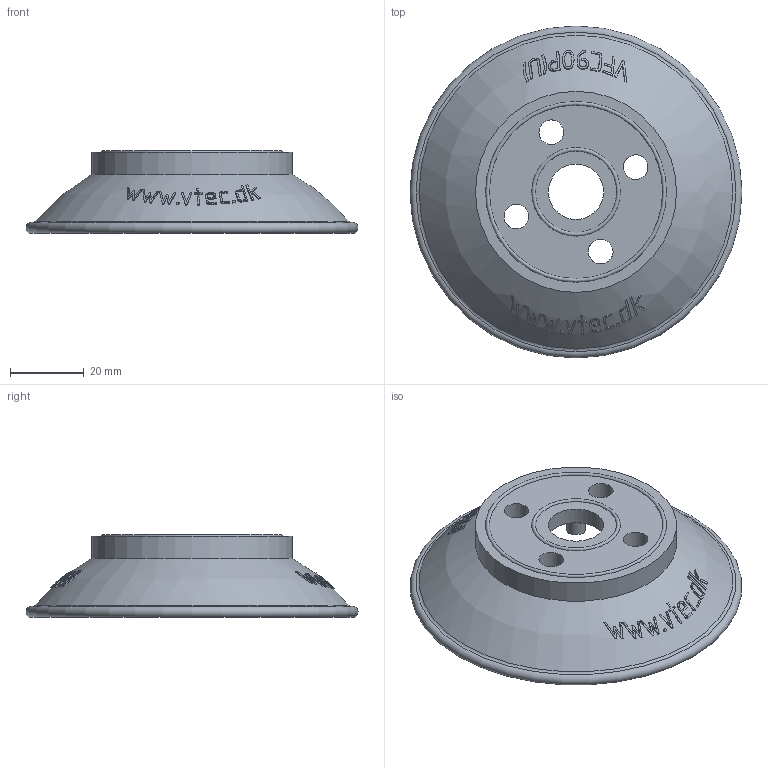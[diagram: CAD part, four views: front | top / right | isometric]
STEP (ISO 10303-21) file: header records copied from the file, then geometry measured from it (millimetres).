
FILE_DESCRIPTION( ( 'Unknown' ), '1' );
FILE_NAME( 'C:/Documents and Settings/owner/官帕 拳搁/MISUMI/PAD/VFC/VFC90-PU.stp', 'Unknown', ( 'Unknown' ), ( 'Unknown' ), 'XStep 1.0', 'Unknown', ' ' );
FILE_SCHEMA( ( 'automotive_design' ) );
Length unit declared in the file: millimetre
Products named in the file (2): Assem1; 1
Bounding box: 90 x 90 x 22.5 mm (x, y, z)
Volume: 66751.9 mm3; surface area: 38417.3 mm2
Topology: 2 solids, 2 shells, 584 faces, 1446 edges, 966 vertices
Faces by surface type: plane 190, bspline 128, sphere 106, extrusion 86, cylinder 60, torus 10, cone 4
Full cylindrical faces by diameter (mm): 6.7 x8, 15 x2, 54.5 x2
Entity records: 20221 total; most frequent: CARTESIAN_POINT 11702, ORIENTED_EDGE 1378, DIRECTION 983, EDGE_CURVE 689, VERTEX_POINT 469, AXIS2_PLACEMENT_3D 414, B_SPLINE_CURVE_WITH_KNOTS 393, EDGE_LOOP 372
